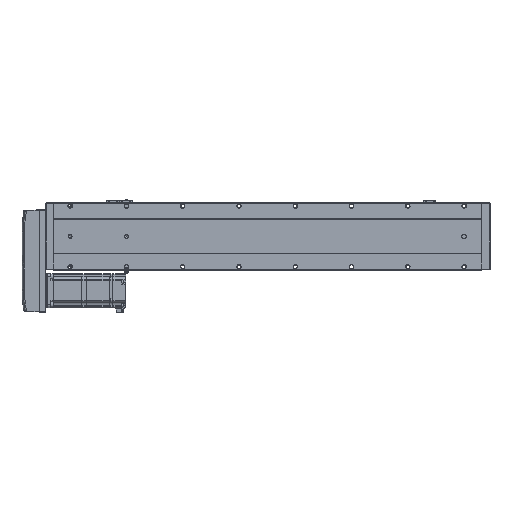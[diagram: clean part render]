
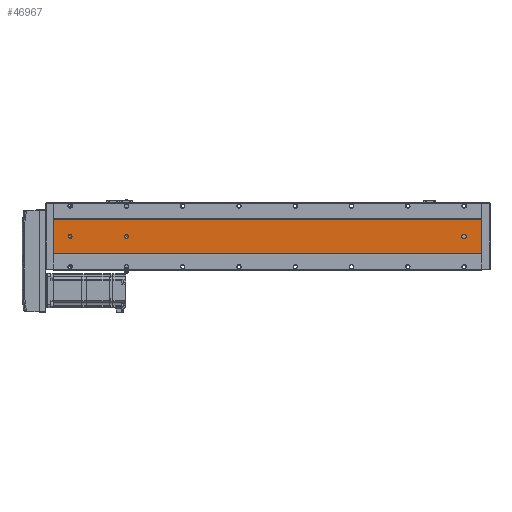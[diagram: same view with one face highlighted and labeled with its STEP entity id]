
A CAD part, front view. The second image highlights one B-rep face of the part: STEP entity #46967.
In plain terms, the highlighted planar face has unit normal (0, -1, 0).
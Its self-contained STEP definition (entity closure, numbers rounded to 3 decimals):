
#408 = CARTESIAN_POINT ( 'NONE',  ( -43.392, -52.848, 30. ) ) ;
#431 = ORIENTED_EDGE ( 'NONE', *, *, #18145, .T. ) ;
#508 = CARTESIAN_POINT ( 'NONE',  ( -39.892, -52.848, 731. ) ) ;
#1398 = CARTESIAN_POINT ( 'NONE',  ( -43.392, -52.848, 761. ) ) ;
#2137 = CARTESIAN_POINT ( 'NONE',  ( -43.392, -52.848, 32. ) ) ;
#2334 = EDGE_CURVE ( 'NONE', #14759, #53570, #33685, .T. ) ;
#3255 = EDGE_CURVE ( 'NONE', #53570, #27416, #35515, .T. ) ;
#3279 = DIRECTION ( 'NONE',  ( 0., 0., 1. ) ) ;
#3433 = DIRECTION ( 'NONE',  ( 0., 0., -1. ) ) ;
#5449 = LINE ( 'NONE', #47903, #18352 ) ;
#5452 = ORIENTED_EDGE ( 'NONE', *, *, #3255, .F. ) ;
#5781 = DIRECTION ( 'NONE',  ( 1., 0., 0. ) ) ;
#7160 = CARTESIAN_POINT ( 'NONE',  ( -9.892, -52.848, 761. ) ) ;
#7183 = AXIS2_PLACEMENT_3D ( 'NONE', #59634, #40303, #3279 ) ;
#7272 = ORIENTED_EDGE ( 'NONE', *, *, #8916, .T. ) ;
#8916 = EDGE_CURVE ( 'NONE', #14759, #78915, #5449, .T. ) ;
#8992 = DIRECTION ( 'NONE',  ( 0., 1., 0. ) ) ;
#9872 = FACE_BOUND ( 'NONE', #51130, .T. ) ;
#12424 = PLANE ( 'NONE',  #63977 ) ;
#12499 = ORIENTED_EDGE ( 'NONE', *, *, #40901, .T. ) ;
#12555 = LINE ( 'NONE', #1398, #73836 ) ;
#12678 = CARTESIAN_POINT ( 'NONE',  ( -69.892, -52.848, 761. ) ) ;
#13034 = VECTOR ( 'NONE', #64713, 1000. ) ;
#14759 = VERTEX_POINT ( 'NONE', #38611 ) ;
#15637 = EDGE_LOOP ( 'NONE', ( #54795, #70652, #67464, #31506, #75244 ) ) ;
#15930 = CARTESIAN_POINT ( 'NONE',  ( -39.892, -52.848, 731. ) ) ;
#16276 = EDGE_CURVE ( 'NONE', #71117, #78504, #65071, .T. ) ;
#16839 = EDGE_LOOP ( 'NONE', ( #59344, #431 ) ) ;
#17140 = DIRECTION ( 'NONE',  ( 0., 0., 1. ) ) ;
#18145 = EDGE_CURVE ( 'NONE', #78504, #71117, #46768, .T. ) ;
#18352 = VECTOR ( 'NONE', #3433, 1000. ) ;
#18559 = CARTESIAN_POINT ( 'NONE',  ( -39.892, -52.848, 26.5 ) ) ;
#20498 = DIRECTION ( 'NONE',  ( 0., 0., 1. ) ) ;
#20561 = CARTESIAN_POINT ( 'NONE',  ( -69.892, -52.848, 0. ) ) ;
#21252 = CIRCLE ( 'NONE', #54101, 3.5 ) ;
#22944 = LINE ( 'NONE', #20561, #13034 ) ;
#23159 = DIRECTION ( 'NONE',  ( 0., 0., -1. ) ) ;
#24359 = DIRECTION ( 'NONE',  ( 0., 1., 0. ) ) ;
#25100 = CARTESIAN_POINT ( 'NONE',  ( -39.892, -52.848, 734.5 ) ) ;
#25952 = AXIS2_PLACEMENT_3D ( 'NONE', #51106, #51375, #63780 ) ;
#26526 = EDGE_CURVE ( 'NONE', #52041, #60151, #66338, .T. ) ;
#26557 = CARTESIAN_POINT ( 'NONE',  ( -39.892, -52.848, 634.5 ) ) ;
#26684 = FACE_BOUND ( 'NONE', #15637, .T. ) ;
#27416 = VERTEX_POINT ( 'NONE', #70511 ) ;
#27944 = DIRECTION ( 'NONE',  ( 0., 1., 0. ) ) ;
#28075 = DIRECTION ( 'NONE',  ( 0., 0., -1. ) ) ;
#29744 = VECTOR ( 'NONE', #5781, 1000. ) ;
#30174 = VERTEX_POINT ( 'NONE', #18559 ) ;
#30703 = DIRECTION ( 'NONE',  ( 0., 0., 1. ) ) ;
#31506 = ORIENTED_EDGE ( 'NONE', *, *, #77526, .T. ) ;
#32017 = EDGE_CURVE ( 'NONE', #30174, #57901, #58572, .T. ) ;
#32074 = ORIENTED_EDGE ( 'NONE', *, *, #2334, .F. ) ;
#33465 = FACE_BOUND ( 'NONE', #16839, .T. ) ;
#33685 = LINE ( 'NONE', #48073, #29744 ) ;
#35515 = LINE ( 'NONE', #40771, #72149 ) ;
#35534 = FACE_OUTER_BOUND ( 'NONE', #63909, .T. ) ;
#36833 = ORIENTED_EDGE ( 'NONE', *, *, #74302, .T. ) ;
#38197 = CIRCLE ( 'NONE', #7183, 3.5 ) ;
#38611 = CARTESIAN_POINT ( 'NONE',  ( -69.892, -52.848, 761. ) ) ;
#39059 = VERTEX_POINT ( 'NONE', #57512 ) ;
#40303 = DIRECTION ( 'NONE',  ( 0., 1., 0. ) ) ;
#40771 = CARTESIAN_POINT ( 'NONE',  ( -9.892, -52.848, 761. ) ) ;
#40901 = EDGE_CURVE ( 'NONE', #64684, #39059, #21252, .T. ) ;
#44114 = DIRECTION ( 'NONE',  ( 0., 0., 1. ) ) ;
#44979 = DIRECTION ( 'NONE',  ( 0., 0., 1. ) ) ;
#46440 = CARTESIAN_POINT ( 'NONE',  ( -39.892, -52.848, 30. ) ) ;
#46768 = CIRCLE ( 'NONE', #62989, 3.5 ) ;
#46967 = ADVANCED_FACE ( 'NONE', ( #26684, #9872, #33465, #35534 ), #12424, .F. ) ;
#47903 = CARTESIAN_POINT ( 'NONE',  ( -69.892, -52.848, 761. ) ) ;
#48073 = CARTESIAN_POINT ( 'NONE',  ( -69.892, -52.848, 761. ) ) ;
#48290 = DIRECTION ( 'NONE',  ( 0., 1., 0. ) ) ;
#49706 = AXIS2_PLACEMENT_3D ( 'NONE', #508, #69253, #44114 ) ;
#51106 = CARTESIAN_POINT ( 'NONE',  ( -39.892, -52.848, 631. ) ) ;
#51130 = EDGE_LOOP ( 'NONE', ( #60026, #12499 ) ) ;
#51375 = DIRECTION ( 'NONE',  ( 0., 1., 0. ) ) ;
#51428 = AXIS2_PLACEMENT_3D ( 'NONE', #79822, #48290, #17140 ) ;
#51919 = VERTEX_POINT ( 'NONE', #2137 ) ;
#52041 = VERTEX_POINT ( 'NONE', #53257 ) ;
#53257 = CARTESIAN_POINT ( 'NONE',  ( -36.392, -52.848, 32. ) ) ;
#53570 = VERTEX_POINT ( 'NONE', #7160 ) ;
#53685 = CARTESIAN_POINT ( 'NONE',  ( -69.892, -52.848, 0. ) ) ;
#53824 = CARTESIAN_POINT ( 'NONE',  ( -36.392, -52.848, 761. ) ) ;
#54101 = AXIS2_PLACEMENT_3D ( 'NONE', #69077, #24359, #30703 ) ;
#54795 = ORIENTED_EDGE ( 'NONE', *, *, #26526, .T. ) ;
#54924 = EDGE_CURVE ( 'NONE', #60151, #30174, #59146, .T. ) ;
#57512 = CARTESIAN_POINT ( 'NONE',  ( -39.892, -52.848, 627.5 ) ) ;
#57901 = VERTEX_POINT ( 'NONE', #408 ) ;
#58413 = EDGE_CURVE ( 'NONE', #39059, #64684, #74333, .T. ) ;
#58572 = CIRCLE ( 'NONE', #51428, 3.5 ) ;
#59146 = CIRCLE ( 'NONE', #79215, 3.5 ) ;
#59344 = ORIENTED_EDGE ( 'NONE', *, *, #16276, .T. ) ;
#59631 = CARTESIAN_POINT ( 'NONE',  ( -36.392, -52.848, 30. ) ) ;
#59634 = CARTESIAN_POINT ( 'NONE',  ( -39.892, -52.848, 32. ) ) ;
#60026 = ORIENTED_EDGE ( 'NONE', *, *, #58413, .T. ) ;
#60151 = VERTEX_POINT ( 'NONE', #59631 ) ;
#62989 = AXIS2_PLACEMENT_3D ( 'NONE', #15930, #8992, #71947 ) ;
#63477 = DIRECTION ( 'NONE',  ( 0., 1., 0. ) ) ;
#63780 = DIRECTION ( 'NONE',  ( 0., 0., 1. ) ) ;
#63909 = EDGE_LOOP ( 'NONE', ( #36833, #5452, #32074, #7272 ) ) ;
#63977 = AXIS2_PLACEMENT_3D ( 'NONE', #12678, #63477, #44979 ) ;
#64253 = VECTOR ( 'NONE', #23159, 1000. ) ;
#64684 = VERTEX_POINT ( 'NONE', #26557 ) ;
#64713 = DIRECTION ( 'NONE',  ( 1., 0., 0. ) ) ;
#65071 = CIRCLE ( 'NONE', #49706, 3.5 ) ;
#66338 = LINE ( 'NONE', #53824, #64253 ) ;
#67464 = ORIENTED_EDGE ( 'NONE', *, *, #32017, .T. ) ;
#69077 = CARTESIAN_POINT ( 'NONE',  ( -39.892, -52.848, 631. ) ) ;
#69253 = DIRECTION ( 'NONE',  ( 0., 1., 0. ) ) ;
#70511 = CARTESIAN_POINT ( 'NONE',  ( -9.892, -52.848, 0. ) ) ;
#70652 = ORIENTED_EDGE ( 'NONE', *, *, #54924, .T. ) ;
#71117 = VERTEX_POINT ( 'NONE', #74980 ) ;
#71573 = EDGE_CURVE ( 'NONE', #51919, #52041, #38197, .T. ) ;
#71947 = DIRECTION ( 'NONE',  ( 0., 0., 1. ) ) ;
#72110 = DIRECTION ( 'NONE',  ( 0., 0., 1. ) ) ;
#72149 = VECTOR ( 'NONE', #28075, 1000. ) ;
#73836 = VECTOR ( 'NONE', #20498, 1000. ) ;
#74302 = EDGE_CURVE ( 'NONE', #78915, #27416, #22944, .T. ) ;
#74333 = CIRCLE ( 'NONE', #25952, 3.5 ) ;
#74980 = CARTESIAN_POINT ( 'NONE',  ( -39.892, -52.848, 727.5 ) ) ;
#75244 = ORIENTED_EDGE ( 'NONE', *, *, #71573, .T. ) ;
#77526 = EDGE_CURVE ( 'NONE', #57901, #51919, #12555, .T. ) ;
#78504 = VERTEX_POINT ( 'NONE', #25100 ) ;
#78915 = VERTEX_POINT ( 'NONE', #53685 ) ;
#79215 = AXIS2_PLACEMENT_3D ( 'NONE', #46440, #27944, #72110 ) ;
#79822 = CARTESIAN_POINT ( 'NONE',  ( -39.892, -52.848, 30. ) ) ;
